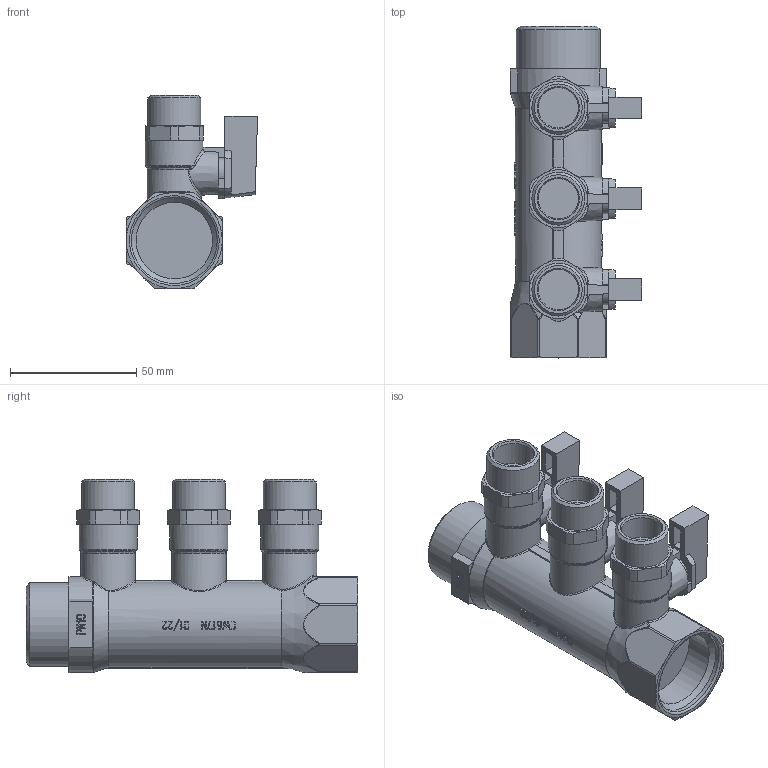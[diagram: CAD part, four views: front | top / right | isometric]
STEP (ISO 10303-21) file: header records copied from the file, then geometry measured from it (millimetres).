
FILE_DESCRIPTION(('STEP AP203'), '1');
FILE_NAME('覆.622621.012.000 捘 - VTc.580.N.0603', '2024-07-25T11:53:44', ('Boss'), (''), 'C3D Converter', 'C3D Toolkit', '');
FILE_SCHEMA(('CONFIG_CONTROL_DESIGN'));
Length unit declared in the file: millimetre
Products named in the file (1): ВР.622621.012.000 СБ
Bounding box: 52 x 131.5 x 76.5 mm (x, y, z)
Volume: 161292.3 mm3; surface area: 39970.8 mm2
Topology: 4 solids, 4 shells, 1006 faces, 2684 edges, 1739 vertices
Faces by surface type: plane 390, extrusion 338, cylinder 118, cone 73, bspline 58, torus 29
Full cylindrical faces by diameter (mm): 4 x3, 4.5 x3, 6.4 x3, 8 x3, 9.5 x3, 16 x3, 20.955 x3, 21.5 x3, 23 x3, 26 x1, 30.292 x1, 33.249 x1, 34 x1
Entity records: 48990 total; most frequent: CARTESIAN_POINT 26522, ORIENTED_EDGE 5250, DIRECTION 3344, EDGE_CURVE 2625, VERTEX_POINT 1739, VECTOR 1420, B_SPLINE_CURVE_WITH_KNOTS 1394, EDGE_LOOP 1124
